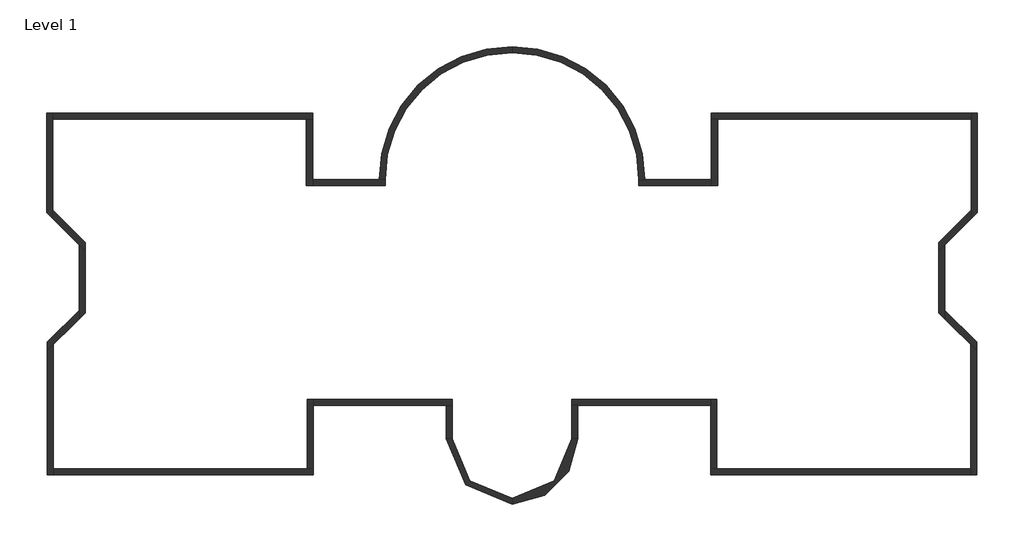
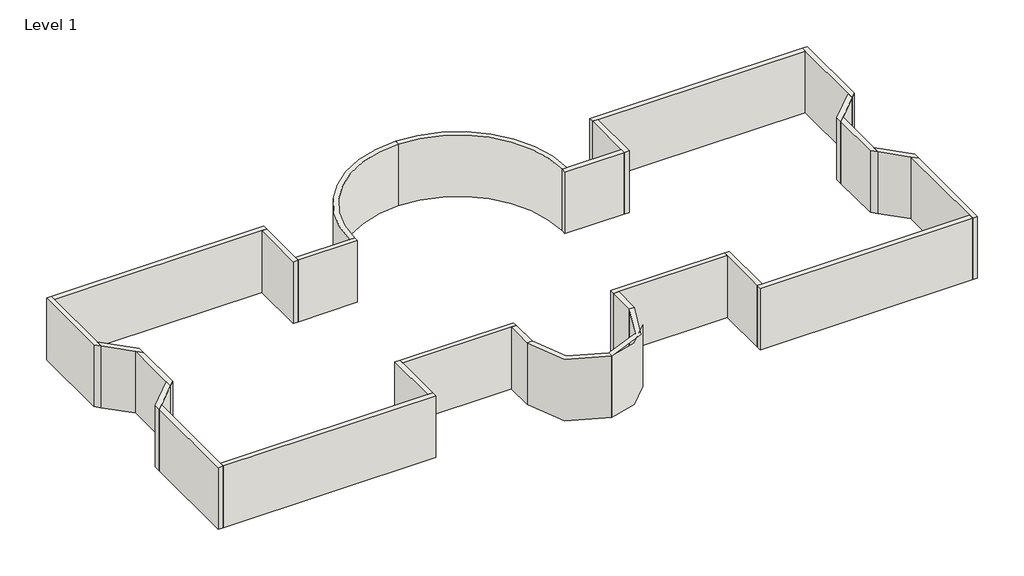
# One storey: 28 walls.
"""IFC4 building model written with IfcOpenShell, lengths in millimetres."""

from ifc_helpers import new_model, si_unit, point, frame, frame_2d, origin, origin_with_axes, place, context, project, spatial, polyline, circle_curve, trimmed, segment, composite_curve, outline, extrude, faceted_brep, element, save
from ifc_brep_helpers import plane_surface, revolved_surface, advanced_brep

model = new_model("IFC4")

# Units and contexts
model_context = context("Model", 3, world=origin())
ifc_project = project(units=[si_unit("LENGTHUNIT", "METRE", prefix="MILLI")], contexts=[model_context])

# Site, building, storey
site = spatial("IfcSite", under=ifc_project)
building = spatial("IfcBuilding", under=site)
storey = spatial("IfcBuildingStorey", under=building, Name="Level 1", Elevation=0.0)

# Walls
placement = place(None, origin())
element("IfcWall", 1, ObjectType="Exterior - Insulated Metal Panel", at=placement, inside=storey, context=model_context, shape_type="Brep", body=[
    faceted_brep([(-20977.5842451, 2632.9230942, 0.0), (-20977.5842451, 3023.5642355, 0.0), (-20977.5842451, 7204.9230942, 0.0), (-20977.5842451, 7481.1480942, 0.0), (-20977.5842451, 7481.1480942, 3657.6), (-20977.5842451, 7204.9230942, 3657.6), (-20977.5842451, 3023.5642355, 3657.6), (-20977.5842451, 2632.9230942, 3657.6), (-21253.8092451, 2909.1480942, 0.0), (-21253.8092451, 2909.1480942, 3657.6), (-21253.8092451, 7481.1480942, 3657.6), (-21253.8092451, 7481.1480942, 0.0)], [[[0, 1, 2, 3, 4, 5, 6, 7]], [[8, 9, 10, 11]], [[3, 2, 1, 0, 8, 11]], [[7, 6, 5, 4, 10, 9]], [[4, 3, 11, 10]], [[0, 7, 9, 8]]]),
])
element("IfcWall", 2, ObjectType="Exterior - Insulated Metal Panel", at=placement, inside=storey, context=model_context, shape_type="Brep", body=[
    faceted_brep([(-20977.5842451, 7204.9230942, 0.0), (-9338.0342451, 7204.9230942, 0.0), (-9061.8092451, 7204.9230942, 0.0), (-9061.8092451, 7204.9230942, 3657.6), (-9338.0342451, 7204.9230942, 3657.6), (-20977.5842451, 7204.9230942, 3657.6), (-20977.5842451, 7481.1480942, 0.0), (-20977.5842451, 7481.1480942, 3657.6), (-9061.8092451, 7481.1480942, 3657.6), (-9061.8092451, 7481.1480942, 0.0)], [[[0, 1, 2, 3, 4, 5]], [[6, 7, 8, 9]], [[2, 1, 0, 6, 9]], [[5, 4, 3, 8, 7]], [[3, 2, 9, 8]], [[0, 5, 7, 6]]]),
])
element("IfcWall", 3, ObjectType="Exterior - Insulated Metal Panel", at=placement, inside=storey, context=model_context, shape_type="Brep", body=[
    faceted_brep([(-9338.0342451, 7204.9230942, 0.0), (-9338.0342451, 4156.9230942, 0.0), (-9338.0342451, 4156.9230942, 3657.6), (-9338.0342451, 7204.9230942, 3657.6), (-9061.8092451, 7204.9230942, 0.0), (-9061.8092451, 7204.9230942, 3657.6), (-9061.8092451, 4433.1480942, 3657.6), (-9061.8092451, 4156.9230942, 3657.6), (-9061.8092451, 4156.9230942, 0.0), (-9061.8092451, 4433.1480942, 0.0)], [[[0, 1, 2, 3]], [[4, 5, 6, 7, 8, 9]], [[1, 0, 4, 9, 8]], [[3, 2, 7, 6, 5]], [[2, 1, 8, 7]], [[0, 3, 5, 4]]]),
])
element("IfcWall", 4, ObjectType="Exterior - Insulated Metal Panel", at=placement, inside=storey, context=model_context, shape_type="AdvancedBrep", body=[
    advanced_brep(
    [(-9061.8092451, 4156.9230942, 0.0), (-5731.0252913, 4156.9230942, 0.0), (-5731.0252913, 4156.9230942, 3657.6), (-9061.8092451, 4156.9230942, 3657.6), (-9061.8092451, 4433.1480942, 0.0), (-9061.8092451, 4433.1480942, 3657.6), (-6013.8092451, 4433.1480942, 3657.6), (-5737.5842451, 4433.1480942, 3657.6), (-5737.5842451, 4433.1480942, 0.0), (-6013.8092451, 4433.1480942, 0.0)],
    [
        (0, 1),
        (1, 2),
        (2, 3),
        (3, 0),
        (4, 5),
        (5, 6),
        (6, 7),
        (7, 8),
        (8, 9),
        (9, 4),
        (0, 4),
        (8, 1, circle_curve(frame((82.1907549, 4433.1480942, 0.0), z_axis=(0.0, 0.0, 1.0), x_axis=(1.0, 0.0, 0.0)), 5819.775)),
        (2, 7, circle_curve(frame((82.1907549, 4433.1480942, 3657.6), z_axis=(0.0, 0.0, -1.0), x_axis=(1.0, 0.0, 0.0)), 5819.775)),
        (5, 3),
    ],
    [
        plane_surface(frame((-9061.8092451, 4156.9230942, 0.0), z_axis=(0.0, -1.0, 0.0), x_axis=(1.0, 0.0, 0.0))),
        plane_surface(frame((-9061.8092451, 4433.1480942, 0.0), z_axis=(0.0, 1.0, 0.0), x_axis=(-1.0, 0.0, 0.0))),
        plane_surface(frame((-9199.9217451, 4156.9230942, 0.0), z_axis=(0.0, 0.0, -1.0), x_axis=(0.0, 1.0, 0.0))),
        plane_surface(frame((-5874.0957056, 4156.9230942, 3657.6), z_axis=(0.0, 0.0, 1.0), x_axis=(0.0, 1.0, 0.0))),
        revolved_surface(polyline([(5901.965754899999, 4433.1480942, 0.0), (5901.965754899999, 4433.1480942, 3657.6)]), (82.1907549, 4433.1480942, 0.0), (0.0, 0.0, -1.0)),
        plane_surface(frame((-9061.8092451, 7481.1480942, 0.0), z_axis=(-1.0, 0.0, 0.0), x_axis=(0.0, 1.0, 0.0))),
    ],
    [
        (0, [[1, 2, 3, 4]]),
        (1, [[5, 6, 7, 8, 9, 10]]),
        (2, [[-1, 11, -10, -9, 12]]),
        (3, [[-3, 13, -7, -6, 14]]),
        (4, [[-2, -12, -8, -13]]),
        (5, [[-4, -14, -5, -11]]),
    ],
),
])
element("IfcWall", 5, ObjectType="Exterior - Insulated Metal Panel", at=placement, inside=storey, context=model_context, shape_type="SweptSolid", body=[
    extrude(outline(composite_curve([segment(polyline([(82.1907549, 10529.1480942), (82.1907549, 10252.9230942)]), True, "CONTINUOUS"), segment(trimmed(circle_curve(frame_2d((82.1907549, 4433.1480942)), 5819.775), [point((82.1907549, 10252.9230942))], [point((-5737.5842451, 4433.1480942))], True, "CARTESIAN"), True, "CONTINUOUS"), segment(polyline([(-5737.5842451, 4433.1480942), (-6013.8092451, 4433.1480942)]), True, "CONTINUOUS"), segment(trimmed(circle_curve(frame_2d((82.1907549, 4433.1480942)), 6096.0), [point((-6013.8092451, 4433.1480942))], [point((82.1907549, 10529.1480942))], False, "CARTESIAN"), True, "CONTINUOUS")], self_intersect=False)), origin_with_axes(), (0.0, 0.0, 1.0), 3657.6),
])
element("IfcWall", 6, ObjectType="Exterior - Insulated Metal Panel", at=placement, inside=storey, context=model_context, shape_type="Brep", body=[
    faceted_brep([(-19483.3748817, 1529.3548722, 0.0), (-20977.5842451, 3023.5642355, 0.0), (-20977.5842451, 3023.5642355, 3657.6), (-19483.3748817, 1529.3548722, 3657.6), (-19483.3748817, 1138.7137309, 0.0), (-19483.3748817, 1138.7137309, 3657.6), (-19759.5998817, 1414.9387309, 3657.6), (-20977.5842451, 2632.9230942, 3657.6), (-20977.5842451, 2632.9230942, 0.0), (-19759.5998817, 1414.9387309, 0.0)], [[[0, 1, 2, 3]], [[4, 5, 6, 7, 8, 9]], [[1, 0, 4, 9, 8]], [[3, 2, 7, 6, 5]], [[0, 3, 5, 4]], [[2, 1, 8, 7]]]),
])
element("IfcWall", 7, ObjectType="Exterior - Insulated Metal Panel", at=placement, inside=storey, context=model_context, shape_type="Brep", body=[
    faceted_brep([(-19483.3748817, -1690.2693397, 0.0), (-19483.3748817, 1138.7137309, 0.0), (-19483.3748817, 1138.7137309, 3657.6), (-19483.3748817, -1690.2693397, 3657.6), (-19759.5998817, -1966.4943397, 0.0), (-19759.5998817, -1966.4943397, 3657.6), (-19759.5998817, -1575.8531985, 3657.6), (-19759.5998817, 1414.9387309, 3657.6), (-19759.5998817, 1414.9387309, 0.0), (-19759.5998817, -1575.8531985, 0.0)], [[[0, 1, 2, 3]], [[4, 5, 6, 7, 8, 9]], [[1, 0, 4, 9, 8]], [[3, 2, 7, 6, 5]], [[0, 3, 5, 4]], [[2, 1, 8, 7]]]),
])
element("IfcWall", 8, ObjectType="Exterior - Insulated Metal Panel", at=placement, inside=storey, context=model_context, shape_type="Brep", body=[
    faceted_brep([(-19759.5998817, -1575.8531985, 0.0), (-21213.3570304, -3029.6103471, 0.0), (-21213.3570304, -3029.6103471, 3657.6), (-19759.5998817, -1575.8531985, 3657.6), (-19759.5998817, -1966.4943397, 0.0), (-19759.5998817, -1966.4943397, 3657.6), (-20937.1320304, -3144.0264884, 3657.6), (-21213.3570304, -3420.2514884, 3657.6), (-21213.3570304, -3420.2514884, 0.0), (-20937.1320304, -3144.0264884, 0.0)], [[[0, 1, 2, 3]], [[4, 5, 6, 7, 8, 9]], [[1, 0, 4, 9, 8]], [[3, 2, 7, 6, 5]], [[2, 1, 8, 7]], [[0, 3, 5, 4]]]),
])
element("IfcWall", 9, ObjectType="Exterior - Insulated Metal Panel", at=placement, inside=storey, context=model_context, shape_type="Brep", body=[
    faceted_brep([(-20937.1320304, -9125.6103471, 0.0), (-20937.1320304, -8849.3853471, 0.0), (-20937.1320304, -3144.0264884, 0.0), (-20937.1320304, -3144.0264884, 3657.6), (-20937.1320304, -8849.3853471, 3657.6), (-20937.1320304, -9125.6103471, 3657.6), (-21213.3570304, -9125.6103471, 0.0), (-21213.3570304, -9125.6103471, 3657.6), (-21213.3570304, -3420.2514884, 3657.6), (-21213.3570304, -3420.2514884, 0.0)], [[[0, 1, 2, 3, 4, 5]], [[6, 7, 8, 9]], [[2, 1, 0, 6, 9]], [[5, 4, 3, 8, 7]], [[0, 5, 7, 6]], [[3, 2, 9, 8]]]),
])
element("IfcWall", 10, ObjectType="Exterior - Insulated Metal Panel", at=placement, inside=storey, context=model_context, shape_type="Brep", body=[
    faceted_brep([(-9021.3570304, -8849.3853471, 0.0), (-9297.5820304, -8849.3853471, 0.0), (-20937.1320304, -8849.3853471, 0.0), (-20937.1320304, -8849.3853471, 3657.6), (-9297.5820304, -8849.3853471, 3657.6), (-9021.3570304, -8849.3853471, 3657.6), (-9021.3570304, -9125.6103471, 0.0), (-9021.3570304, -9125.6103471, 3657.6), (-20937.1320304, -9125.6103471, 3657.6), (-20937.1320304, -9125.6103471, 0.0)], [[[0, 1, 2, 3, 4, 5]], [[6, 7, 8, 9]], [[2, 1, 0, 6, 9]], [[5, 4, 3, 8, 7]], [[0, 5, 7, 6]], [[3, 2, 9, 8]]]),
])
element("IfcWall", 11, ObjectType="Exterior - Insulated Metal Panel", at=placement, inside=storey, context=model_context, shape_type="Brep", body=[
    faceted_brep([(-9297.5820304, -5663.2728471, 0.0), (-9297.5820304, -8849.3853471, 0.0), (-9297.5820304, -8849.3853471, 3657.6), (-9297.5820304, -5663.2728471, 3657.6), (-9021.3570304, -5663.2728471, 0.0), (-9021.3570304, -5663.2728471, 3657.6), (-9021.3570304, -5939.4978471, 3657.6), (-9021.3570304, -8849.3853471, 3657.6), (-9021.3570304, -8849.3853471, 0.0), (-9021.3570304, -5939.4978471, 0.0)], [[[0, 1, 2, 3]], [[4, 5, 6, 7, 8, 9]], [[1, 0, 4, 9, 8]], [[3, 2, 7, 6, 5]], [[0, 3, 5, 4]], [[2, 1, 8, 7]]]),
])
element("IfcWall", 12, ObjectType="Exterior - Insulated Metal Panel", at=placement, inside=storey, context=model_context, shape_type="Brep", body=[
    faceted_brep([(-2649.1320304, -5663.2728471, 0.0), (-9021.3570304, -5663.2728471, 0.0), (-9021.3570304, -5663.2728471, 3657.6), (-2649.1320304, -5663.2728471, 3657.6), (-2649.1320304, -5939.4978471, 0.0), (-2649.1320304, -5939.4978471, 3657.6), (-2925.3570304, -5939.4978471, 3657.6), (-9021.3570304, -5939.4978471, 3657.6), (-9021.3570304, -5939.4978471, 0.0), (-2925.3570304, -5939.4978471, 0.0)], [[[0, 1, 2, 3]], [[4, 5, 6, 7, 8, 9]], [[1, 0, 4, 9, 8]], [[3, 2, 7, 6, 5]], [[0, 3, 5, 4]], [[2, 1, 8, 7]]]),
])
element("IfcWall", 13, ObjectType="Exterior - Insulated Metal Panel", at=placement, inside=storey, context=model_context, shape_type="SweptSolid", body=[
    extrude(outline(polyline([(-2649.1320304, -5939.4978471), (-2649.1320304, -7463.4978471), (-2925.3570304, -7463.4978471), (-2925.3570304, -5939.4978471), (-2649.1320304, -5939.4978471)])), origin_with_axes(), (0.0, 0.0, 1.0), 3657.6),
])
element("IfcWall", 14, ObjectType="Exterior - Insulated Metal Panel", at=placement, inside=storey, context=model_context, shape_type="SweptSolid", body=[
    extrude(outline(composite_curve([segment(polyline([(82.1907549, -10194.8206324), (82.1907549, -10471.0456324)]), True, "CONTINUOUS"), segment(trimmed(circle_curve(frame_2d((82.1907549, -7463.4978471)), 3007.5477853), [point((82.1907549, -10471.0456324))], [point((-2925.3570304, -7463.4978471))], False, "CARTESIAN"), True, "CONTINUOUS"), segment(polyline([(-2925.3570304, -7463.4978471), (-2649.1320304, -7463.4978471)]), True, "CONTINUOUS"), segment(trimmed(circle_curve(frame_2d((82.1907549, -7463.4978471)), 2731.3227853), [point((-2649.1320304, -7463.4978471))], [point((82.1907549, -10194.8206324))], True, "CARTESIAN"), True, "CONTINUOUS")], self_intersect=False)), origin_with_axes(), (0.0, 0.0, 1.0), 3657.6),
])
element("IfcWall", 15, ObjectType="Exterior - Insulated Metal Panel", at=placement, inside=storey, context=model_context, shape_type="Brep", body=[
    faceted_brep([(21418.1907549, 2909.1480942, 0.0), (21418.1907549, 7481.1480942, 0.0), (21418.1907549, 7481.1480942, 3657.6), (21418.1907549, 2909.1480942, 3657.6), (21141.9657549, 2632.9230942, 0.0), (21141.9657549, 2632.9230942, 3657.6), (21141.9657549, 3023.5642355, 3657.6), (21141.9657549, 7204.9230942, 3657.6), (21141.9657549, 7481.1480942, 3657.6), (21141.9657549, 7481.1480942, 0.0), (21141.9657549, 7204.9230942, 0.0), (21141.9657549, 3023.5642355, 0.0)], [[[0, 1, 2, 3]], [[4, 5, 6, 7, 8, 9, 10, 11]], [[1, 0, 4, 11, 10, 9]], [[3, 2, 8, 7, 6, 5]], [[2, 1, 9, 8]], [[0, 3, 5, 4]]]),
])
element("IfcWall", 16, ObjectType="Exterior - Insulated Metal Panel", at=placement, inside=storey, context=model_context, shape_type="Brep", body=[
    faceted_brep([(21141.9657549, 7481.1480942, 0.0), (9226.1907549, 7481.1480942, 0.0), (9226.1907549, 7481.1480942, 3657.6), (21141.9657549, 7481.1480942, 3657.6), (21141.9657549, 7204.9230942, 0.0), (21141.9657549, 7204.9230942, 3657.6), (9502.4157549, 7204.9230942, 3657.6), (9226.1907549, 7204.9230942, 3657.6), (9226.1907549, 7204.9230942, 0.0), (9502.4157549, 7204.9230942, 0.0)], [[[0, 1, 2, 3]], [[4, 5, 6, 7, 8, 9]], [[1, 0, 4, 9, 8]], [[3, 2, 7, 6, 5]], [[2, 1, 8, 7]], [[0, 3, 5, 4]]]),
])
element("IfcWall", 17, ObjectType="Exterior - Insulated Metal Panel", at=placement, inside=storey, context=model_context, shape_type="Brep", body=[
    faceted_brep([(9226.1907549, 7204.9230942, 0.0), (9226.1907549, 4433.1480942, 0.0), (9226.1907549, 4156.9230942, 0.0), (9226.1907549, 4156.9230942, 3657.6), (9226.1907549, 4433.1480942, 3657.6), (9226.1907549, 7204.9230942, 3657.6), (9502.4157549, 7204.9230942, 0.0), (9502.4157549, 7204.9230942, 3657.6), (9502.4157549, 4156.9230942, 3657.6), (9502.4157549, 4156.9230942, 0.0)], [[[0, 1, 2, 3, 4, 5]], [[6, 7, 8, 9]], [[2, 1, 0, 6, 9]], [[5, 4, 3, 8, 7]], [[3, 2, 9, 8]], [[0, 5, 7, 6]]]),
])
element("IfcWall", 18, ObjectType="Exterior - Insulated Metal Panel", at=placement, inside=storey, context=model_context, shape_type="AdvancedBrep", body=[
    advanced_brep(
    [(9226.1907549, 4433.1480942, 0.0), (6178.1907549, 4433.1480942, 0.0), (5901.9657549, 4433.1480942, 0.0), (5901.9657549, 4433.1480942, 3657.6), (6178.1907549, 4433.1480942, 3657.6), (9226.1907549, 4433.1480942, 3657.6), (9226.1907549, 4156.9230942, 0.0), (9226.1907549, 4156.9230942, 3657.6), (5895.4068012, 4156.9230942, 3657.6), (5895.4068012, 4156.9230942, 0.0)],
    [
        (0, 1),
        (1, 2),
        (2, 3),
        (3, 4),
        (4, 5),
        (5, 0),
        (6, 7),
        (7, 8),
        (8, 9),
        (9, 6),
        (0, 6),
        (9, 2, circle_curve(frame((82.1907549, 4433.1480942, 0.0), z_axis=(0.0, 0.0, 1.0), x_axis=(-1.0, 0.0, 0.0)), 5819.775)),
        (3, 8, circle_curve(frame((82.1907549, 4433.1480942, 3657.6), z_axis=(0.0, 0.0, -1.0), x_axis=(-1.0, 0.0, 0.0)), 5819.775)),
        (7, 5),
    ],
    [
        plane_surface(frame((9226.1907549, 4433.1480942, 0.0), z_axis=(0.0, 1.0, 0.0), x_axis=(-1.0, 0.0, 0.0))),
        plane_surface(frame((9226.1907549, 4156.9230942, 0.0), z_axis=(0.0, -1.0, 0.0), x_axis=(1.0, 0.0, 0.0))),
        plane_surface(frame((9364.3032549, 4433.1480942, 0.0), z_axis=(0.0, 0.0, -1.0), x_axis=(0.0, -1.0, 0.0))),
        plane_surface(frame((6038.4772155, 4433.1480942, 3657.6), z_axis=(0.0, 0.0, 1.0), x_axis=(0.0, -1.0, 0.0))),
        revolved_surface(polyline([(-5737.5842451, 4433.1480942, 0.0), (-5737.5842451, 4433.1480942, 3657.6)]), (82.1907549, 4433.1480942, 0.0), (0.0, 0.0, -1.0)),
        plane_surface(frame((9226.1907549, 7481.1480942, 0.0), z_axis=(1.0, 0.0, 0.0), x_axis=(0.0, -1.0, 0.0))),
    ],
    [
        (0, [[1, 2, 3, 4, 5, 6]]),
        (1, [[7, 8, 9, 10]]),
        (2, [[-2, -1, 11, -10, 12]]),
        (3, [[-5, -4, 13, -8, 14]]),
        (4, [[-3, -12, -9, -13]]),
        (5, [[-6, -14, -7, -11]]),
    ],
),
])
element("IfcWall", 19, ObjectType="Exterior - Insulated Metal Panel", at=placement, inside=storey, context=model_context, shape_type="SweptSolid", body=[
    extrude(outline(composite_curve([segment(polyline([(82.1907549, 10252.9230942), (82.1907549, 10529.1480942)]), True, "CONTINUOUS"), segment(trimmed(circle_curve(frame_2d((82.1907549, 4433.1480942)), 6096.0), [point((82.1907549, 10529.1480942))], [point((6178.1907549, 4433.1480942))], False, "CARTESIAN"), True, "CONTINUOUS"), segment(polyline([(6178.1907549, 4433.1480942), (5901.9657549, 4433.1480942)]), True, "CONTINUOUS"), segment(trimmed(circle_curve(frame_2d((82.1907549, 4433.1480942)), 5819.775), [point((5901.9657549, 4433.1480942))], [point((82.1907549, 10252.9230942))], True, "CARTESIAN"), True, "CONTINUOUS")], self_intersect=False)), origin_with_axes(), (0.0, 0.0, 1.0), 3657.6),
])
element("IfcWall", 20, ObjectType="Exterior - Insulated Metal Panel", at=placement, inside=storey, context=model_context, shape_type="Brep", body=[
    faceted_brep([(19647.7563916, 1138.7137309, 0.0), (19923.9813916, 1414.9387309, 0.0), (21141.9657549, 2632.9230942, 0.0), (21141.9657549, 2632.9230942, 3657.6), (19923.9813916, 1414.9387309, 3657.6), (19647.7563916, 1138.7137309, 3657.6), (19647.7563916, 1529.3548722, 0.0), (19647.7563916, 1529.3548722, 3657.6), (21141.9657549, 3023.5642355, 3657.6), (21141.9657549, 3023.5642355, 0.0)], [[[0, 1, 2, 3, 4, 5]], [[6, 7, 8, 9]], [[2, 1, 0, 6, 9]], [[5, 4, 3, 8, 7]], [[0, 5, 7, 6]], [[3, 2, 9, 8]]]),
])
element("IfcWall", 21, ObjectType="Exterior - Insulated Metal Panel", at=placement, inside=storey, context=model_context, shape_type="Brep", body=[
    faceted_brep([(19923.9813916, -1966.4943397, 0.0), (19923.9813916, -1575.8531985, 0.0), (19923.9813916, 1414.9387309, 0.0), (19923.9813916, 1414.9387309, 3657.6), (19923.9813916, -1575.8531985, 3657.6), (19923.9813916, -1966.4943397, 3657.6), (19647.7563916, -1690.2693397, 0.0), (19647.7563916, -1690.2693397, 3657.6), (19647.7563916, 1138.7137309, 3657.6), (19647.7563916, 1138.7137309, 0.0)], [[[0, 1, 2, 3, 4, 5]], [[6, 7, 8, 9]], [[2, 1, 0, 6, 9]], [[5, 4, 3, 8, 7]], [[0, 5, 7, 6]], [[3, 2, 9, 8]]]),
])
element("IfcWall", 22, ObjectType="Exterior - Insulated Metal Panel", at=placement, inside=storey, context=model_context, shape_type="Brep", body=[
    faceted_brep([(19923.9813916, -1966.4943397, 0.0), (21101.5135403, -3144.0264884, 0.0), (21377.7385403, -3420.2514884, 0.0), (21377.7385403, -3420.2514884, 3657.6), (21101.5135403, -3144.0264884, 3657.6), (19923.9813916, -1966.4943397, 3657.6), (19923.9813916, -1575.8531985, 0.0), (19923.9813916, -1575.8531985, 3657.6), (21377.7385403, -3029.6103471, 3657.6), (21377.7385403, -3029.6103471, 0.0)], [[[0, 1, 2, 3, 4, 5]], [[6, 7, 8, 9]], [[2, 1, 0, 6, 9]], [[5, 4, 3, 8, 7]], [[3, 2, 9, 8]], [[0, 5, 7, 6]]]),
])
element("IfcWall", 23, ObjectType="Exterior - Insulated Metal Panel", at=placement, inside=storey, context=model_context, shape_type="Brep", body=[
    faceted_brep([(21377.7385403, -9125.6103471, 0.0), (21377.7385403, -3420.2514884, 0.0), (21377.7385403, -3420.2514884, 3657.6), (21377.7385403, -9125.6103471, 3657.6), (21101.5135403, -9125.6103471, 0.0), (21101.5135403, -9125.6103471, 3657.6), (21101.5135403, -8849.3853471, 3657.6), (21101.5135403, -3144.0264884, 3657.6), (21101.5135403, -3144.0264884, 0.0), (21101.5135403, -8849.3853471, 0.0)], [[[0, 1, 2, 3]], [[4, 5, 6, 7, 8, 9]], [[1, 0, 4, 9, 8]], [[3, 2, 7, 6, 5]], [[0, 3, 5, 4]], [[2, 1, 8, 7]]]),
])
element("IfcWall", 24, ObjectType="Exterior - Insulated Metal Panel", at=placement, inside=storey, context=model_context, shape_type="Brep", body=[
    faceted_brep([(9185.7385403, -9125.6103471, 0.0), (21101.5135403, -9125.6103471, 0.0), (21101.5135403, -9125.6103471, 3657.6), (9185.7385403, -9125.6103471, 3657.6), (9185.7385403, -8849.3853471, 0.0), (9185.7385403, -8849.3853471, 3657.6), (9461.9635403, -8849.3853471, 3657.6), (21101.5135403, -8849.3853471, 3657.6), (21101.5135403, -8849.3853471, 0.0), (9461.9635403, -8849.3853471, 0.0)], [[[0, 1, 2, 3]], [[4, 5, 6, 7, 8, 9]], [[1, 0, 4, 9, 8]], [[3, 2, 7, 6, 5]], [[0, 3, 5, 4]], [[2, 1, 8, 7]]]),
])
element("IfcWall", 25, ObjectType="Exterior - Insulated Metal Panel", at=placement, inside=storey, context=model_context, shape_type="Brep", body=[
    faceted_brep([(9185.7385403, -5663.2728471, 0.0), (9185.7385403, -5939.4978471, 0.0), (9185.7385403, -8849.3853471, 0.0), (9185.7385403, -8849.3853471, 3657.6), (9185.7385403, -5939.4978471, 3657.6), (9185.7385403, -5663.2728471, 3657.6), (9461.9635403, -5663.2728471, 0.0), (9461.9635403, -5663.2728471, 3657.6), (9461.9635403, -8849.3853471, 3657.6), (9461.9635403, -8849.3853471, 0.0)], [[[0, 1, 2, 3, 4, 5]], [[6, 7, 8, 9]], [[2, 1, 0, 6, 9]], [[5, 4, 3, 8, 7]], [[0, 5, 7, 6]], [[3, 2, 9, 8]]]),
])
element("IfcWall", 26, ObjectType="Exterior - Insulated Metal Panel", at=placement, inside=storey, context=model_context, shape_type="Brep", body=[
    faceted_brep([(2813.5135403, -5939.4978471, 0.0), (3089.7385403, -5939.4978471, 0.0), (9185.7385403, -5939.4978471, 0.0), (9185.7385403, -5939.4978471, 3657.6), (3089.7385403, -5939.4978471, 3657.6), (2813.5135403, -5939.4978471, 3657.6), (2813.5135403, -5663.2728471, 0.0), (2813.5135403, -5663.2728471, 3657.6), (9185.7385403, -5663.2728471, 3657.6), (9185.7385403, -5663.2728471, 0.0)], [[[0, 1, 2, 3, 4, 5]], [[6, 7, 8, 9]], [[2, 1, 0, 6, 9]], [[5, 4, 3, 8, 7]], [[0, 5, 7, 6]], [[3, 2, 9, 8]]]),
])
element("IfcWall", 27, ObjectType="Exterior - Insulated Metal Panel", at=placement, inside=storey, context=model_context, shape_type="SweptSolid", body=[
    extrude(outline(polyline([(3089.7385403, -5939.4978471), (3089.7385403, -7463.4978471), (2813.5135403, -7463.4978471), (2813.5135403, -5939.4978471), (3089.7385403, -5939.4978471)])), origin_with_axes(), (0.0, 0.0, 1.0), 3657.6),
])
element("IfcWall", 28, ObjectType="Exterior - Insulated Metal Panel", at=placement, inside=storey, context=model_context, shape_type="SweptSolid", body=[
    extrude(outline(composite_curve([segment(polyline([(82.1907549, -10471.0456324), (82.1907549, -10194.8206324)]), True, "CONTINUOUS"), segment(trimmed(circle_curve(frame_2d((82.1907549, -7463.4978471)), 2731.3227853), [point((82.1907549, -10194.8206324))], [point((2813.5135403, -7463.4978471))], True, "CARTESIAN"), True, "CONTINUOUS"), segment(polyline([(2813.5135403, -7463.4978471), (3089.7385403, -7463.4978471)]), True, "CONTINUOUS"), segment(trimmed(circle_curve(frame_2d((82.1907549, -7463.4978471)), 3007.5477853), [point((3089.7385403, -7463.4978471))], [point((82.1907549, -10471.0456324))], False, "CARTESIAN"), True, "CONTINUOUS")], self_intersect=False)), origin_with_axes(), (0.0, 0.0, 1.0), 3657.6),
])

save(model, "model.ifc")
